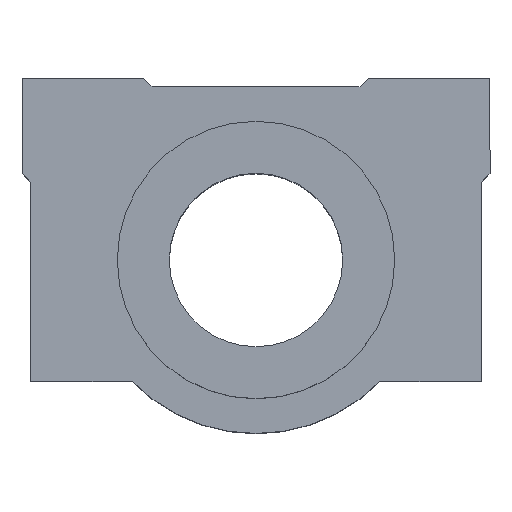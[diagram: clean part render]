
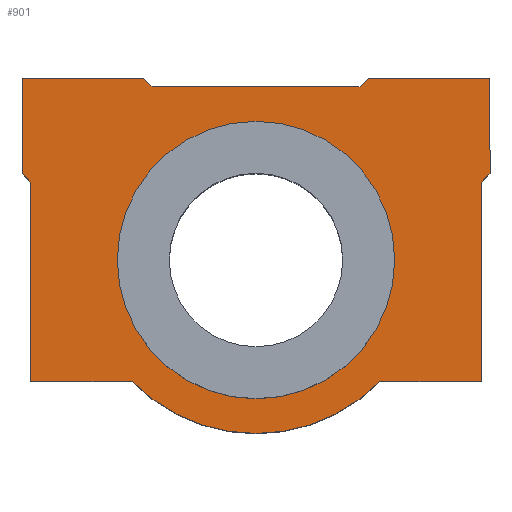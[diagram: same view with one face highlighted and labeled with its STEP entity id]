
A CAD part, top view. The second image highlights one B-rep face of the part: STEP entity #901.
In plain terms, the highlighted planar face has unit normal (0, 0, 1).
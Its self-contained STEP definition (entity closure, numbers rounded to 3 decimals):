
#133=CARTESIAN_POINT('',(-16.709,4.198,34.7));
#134=VERTEX_POINT('',#133);
#143=CARTESIAN_POINT('',(15.291,4.198,34.7));
#144=VERTEX_POINT('',#143);
#145=CARTESIAN_POINT('',(-0.709,4.198,34.7));
#146=DIRECTION('',(0.0,0.0,1.0));
#147=DIRECTION('',(-1.0,0.0,0.0));
#148=AXIS2_PLACEMENT_3D('',#145,#146,#147);
#149=CIRCLE('',#148,16.0);
#150=EDGE_CURVE('',#134,#144,#149,.T.);
#522=CARTESIAN_POINT('',(26.291,14.198,34.7));
#523=VERTEX_POINT('',#522);
#524=CARTESIAN_POINT('',(25.291,13.198,34.7));
#525=VERTEX_POINT('',#524);
#526=CARTESIAN_POINT('',(26.291,14.198,34.7));
#527=DIRECTION('',(-0.707,-0.707,0.0));
#528=VECTOR('',#527,1.414);
#529=LINE('',#526,#528);
#530=EDGE_CURVE('',#523,#525,#529,.T.);
#553=CARTESIAN_POINT('',(25.291,-9.802,34.7));
#554=VERTEX_POINT('',#553);
#555=CARTESIAN_POINT('',(25.291,13.198,34.7));
#556=DIRECTION('',(0.0,-1.0,0.0));
#557=VECTOR('',#556,23.);
#558=LINE('',#555,#557);
#559=EDGE_CURVE('',#525,#554,#558,.T.);
#577=CARTESIAN_POINT('',(13.574,-9.802,34.7));
#578=VERTEX_POINT('',#577);
#579=CARTESIAN_POINT('',(25.291,-9.802,34.7));
#580=DIRECTION('',(-1.0,0.0,0.0));
#581=VECTOR('',#580,11.717);
#582=LINE('',#579,#581);
#583=EDGE_CURVE('',#554,#578,#582,.T.);
#605=CARTESIAN_POINT('',(-14.992,-9.802,34.7));
#606=VERTEX_POINT('',#605);
#607=CARTESIAN_POINT('',(-0.709,4.198,34.7));
#608=DIRECTION('',(0.0,0.0,-1.0));
#609=DIRECTION('',(0.714,0.7,0.0));
#610=AXIS2_PLACEMENT_3D('',#607,#608,#609);
#611=CIRCLE('',#610,20.0);
#612=EDGE_CURVE('',#578,#606,#611,.T.);
#630=CARTESIAN_POINT('',(-26.709,-9.802,34.7));
#631=VERTEX_POINT('',#630);
#632=CARTESIAN_POINT('',(-14.992,-9.802,34.7));
#633=DIRECTION('',(-1.0,0.0,0.0));
#634=VECTOR('',#633,11.717);
#635=LINE('',#632,#634);
#636=EDGE_CURVE('',#606,#631,#635,.T.);
#658=CARTESIAN_POINT('',(-26.709,13.198,34.7));
#659=VERTEX_POINT('',#658);
#660=CARTESIAN_POINT('',(-26.709,-9.802,34.7));
#661=DIRECTION('',(0.0,1.0,0.0));
#662=VECTOR('',#661,23.);
#663=LINE('',#660,#662);
#664=EDGE_CURVE('',#631,#659,#663,.T.);
#682=CARTESIAN_POINT('',(-27.709,14.198,34.7));
#683=VERTEX_POINT('',#682);
#684=CARTESIAN_POINT('',(-26.709,13.198,34.7));
#685=DIRECTION('',(-0.707,0.707,0.0));
#686=VECTOR('',#685,1.414);
#687=LINE('',#684,#686);
#688=EDGE_CURVE('',#659,#683,#687,.T.);
#706=CARTESIAN_POINT('',(-27.709,25.198,34.7));
#707=VERTEX_POINT('',#706);
#708=CARTESIAN_POINT('',(-27.709,14.198,34.7));
#709=DIRECTION('',(0.0,1.0,0.0));
#710=VECTOR('',#709,11.);
#711=LINE('',#708,#710);
#712=EDGE_CURVE('',#683,#707,#711,.T.);
#730=CARTESIAN_POINT('',(-13.709,25.198,34.7));
#731=VERTEX_POINT('',#730);
#732=CARTESIAN_POINT('',(-27.709,25.198,34.7));
#733=DIRECTION('',(1.0,0.0,0.0));
#734=VECTOR('',#733,14.);
#735=LINE('',#732,#734);
#736=EDGE_CURVE('',#707,#731,#735,.T.);
#758=CARTESIAN_POINT('',(-12.709,24.198,34.7));
#759=VERTEX_POINT('',#758);
#760=CARTESIAN_POINT('',(-13.709,25.198,34.7));
#761=DIRECTION('',(0.707,-0.707,0.0));
#762=VECTOR('',#761,1.414);
#763=LINE('',#760,#762);
#764=EDGE_CURVE('',#731,#759,#763,.T.);
#782=CARTESIAN_POINT('',(11.291,24.198,34.7));
#783=VERTEX_POINT('',#782);
#784=CARTESIAN_POINT('',(-12.709,24.198,34.7));
#785=DIRECTION('',(1.0,0.0,0.0));
#786=VECTOR('',#785,24.);
#787=LINE('',#784,#786);
#788=EDGE_CURVE('',#759,#783,#787,.T.);
#806=CARTESIAN_POINT('',(12.291,25.198,34.7));
#807=VERTEX_POINT('',#806);
#808=CARTESIAN_POINT('',(11.291,24.198,34.7));
#809=DIRECTION('',(0.707,0.707,0.0));
#810=VECTOR('',#809,1.414);
#811=LINE('',#808,#810);
#812=EDGE_CURVE('',#783,#807,#811,.T.);
#830=CARTESIAN_POINT('',(26.291,25.198,34.7));
#831=VERTEX_POINT('',#830);
#832=CARTESIAN_POINT('',(12.291,25.198,34.7));
#833=DIRECTION('',(1.0,0.0,0.0));
#834=VECTOR('',#833,14.);
#835=LINE('',#832,#834);
#836=EDGE_CURVE('',#807,#831,#835,.T.);
#858=CARTESIAN_POINT('',(26.291,25.198,34.7));
#859=DIRECTION('',(0.0,-1.0,0.0));
#860=VECTOR('',#859,11.);
#861=LINE('',#858,#860);
#862=EDGE_CURVE('',#831,#523,#861,.T.);
#870=CARTESIAN_POINT('',(-0.709,6.918,34.7));
#871=DIRECTION('',(0.0,0.0,1.0));
#872=DIRECTION('',(1.0,0.0,0.0));
#873=AXIS2_PLACEMENT_3D('',#870,#871,#872);
#874=PLANE('',#873);
#875=ORIENTED_EDGE('',*,*,#530,.F.);
#876=ORIENTED_EDGE('',*,*,#862,.F.);
#877=ORIENTED_EDGE('',*,*,#836,.F.);
#878=ORIENTED_EDGE('',*,*,#812,.F.);
#879=ORIENTED_EDGE('',*,*,#788,.F.);
#880=ORIENTED_EDGE('',*,*,#764,.F.);
#881=ORIENTED_EDGE('',*,*,#736,.F.);
#882=ORIENTED_EDGE('',*,*,#712,.F.);
#883=ORIENTED_EDGE('',*,*,#688,.F.);
#884=ORIENTED_EDGE('',*,*,#664,.F.);
#885=ORIENTED_EDGE('',*,*,#636,.F.);
#886=ORIENTED_EDGE('',*,*,#612,.F.);
#887=ORIENTED_EDGE('',*,*,#583,.F.);
#888=ORIENTED_EDGE('',*,*,#559,.F.);
#889=EDGE_LOOP('',(#875,#876,#877,#878,#879,#880,#881,#882,#883,#884,#885,#886,#887,#888));
#890=FACE_OUTER_BOUND('',#889,.T.);
#891=CARTESIAN_POINT('',(-0.709,4.198,34.7));
#892=DIRECTION('',(0.0,0.0,1.0));
#893=DIRECTION('',(-1.0,0.0,0.0));
#894=AXIS2_PLACEMENT_3D('',#891,#892,#893);
#895=CIRCLE('',#894,16.0);
#896=EDGE_CURVE('',#144,#134,#895,.T.);
#897=ORIENTED_EDGE('',*,*,#896,.F.);
#898=ORIENTED_EDGE('',*,*,#150,.F.);
#899=EDGE_LOOP('',(#897,#898));
#900=FACE_BOUND('',#899,.T.);
#901=ADVANCED_FACE('',(#890,#900),#874,.T.);
